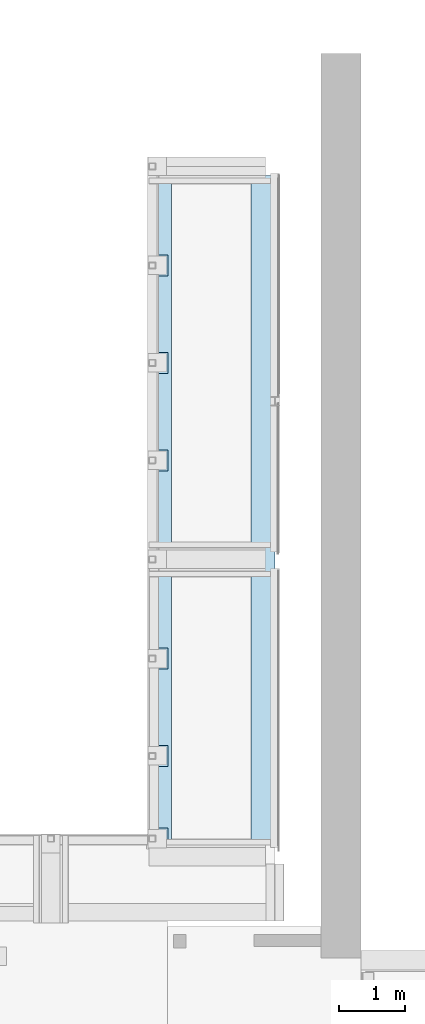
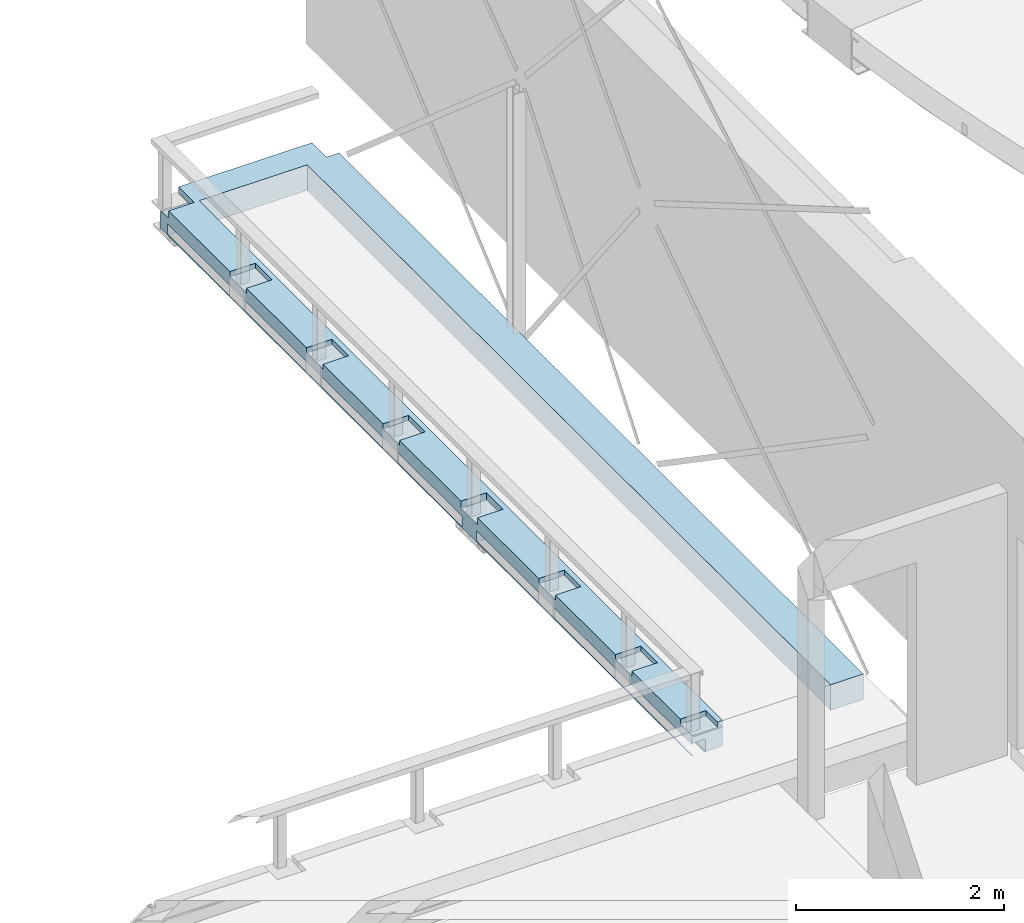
# One storey, part 60 of 68: 1 slab.
"""IFC2X3 building model written with IfcOpenShell, lengths in millimetres."""

import ifcopenshell
import ifcopenshell.guid

model = None  # the IFC model being written
_history = None  # IfcOwnerHistory: only IFC2X3 demands one
_inside = {}  # id of a spatial element -> (the spatial element, [elements in it])
_under = {}  # id of a project, library or spatial element -> (it, [spatial elements below it])
_declared = {}  # id of a project -> (the project, [libraries it declares])
_typed = {}  # id of a type object -> (the type object, [elements of that type])
_made_of = {}  # id of a material, layer set ... -> (it, [elements and type objects made of it])


def new_model(schema):
    """Start an empty IFC model of exactly this schema.

    Asked for "IFC4X3", IfcOpenShell would pick the latest addendum, in which some entities
    have other attributes; the version numbers below select the first issue.
    IFC2X3 requires an IfcOwnerHistory on every rooted entity: one is made here for all.
    """
    global model, _history
    if schema == "IFC4X3":
        model = ifcopenshell.file(schema_version=(4, 3, 0, 0))
    else:
        model = ifcopenshell.file(schema=schema)
    _inside.clear()
    _under.clear()
    _declared.clear()
    _typed.clear()
    _made_of.clear()
    _history = None
    if model.schema == "IFC2X3":
        org = make("IfcOrganization", Name="unknown")
        user = make(
            "IfcPersonAndOrganization",
            ThePerson=make("IfcPerson", FamilyName="unknown"),
            TheOrganization=org,
        )
        app = make(
            "IfcApplication",
            ApplicationDeveloper=org,
            Version="unknown",
            ApplicationFullName="unknown",
            ApplicationIdentifier="unknown",
        )
        _history = make(
            "IfcOwnerHistory",
            OwningUser=user,
            OwningApplication=app,
            ChangeAction="ADDED",
            CreationDate=0,
        )
    return model


def make(cls, **values):
    """One entity of the class cls with the attributes given. An attribute that is None is left unset."""
    return model.create_entity(
        cls, **{name: value for name, value in values.items() if value is not None}
    )


def entity(cls, *values):
    """Any entity or typed value of the class cls, its attributes in the order of the schema. None: left unset."""
    e = model.create_entity(cls)
    for i, value in enumerate(values):
        if value is not None:
            e[i] = value
    return e


def rooted(cls, **values):
    """An entity with a GlobalId (a new one), such as an element, a storey or a relation."""
    return make(cls, GlobalId=ifcopenshell.guid.new(), OwnerHistory=_history, **values)


def si_unit(unit_type, name, prefix=None):
    """IfcSIUnit, for example si_unit("LENGTHUNIT", "METRE", prefix="MILLI")."""
    return make("IfcSIUnit", UnitType=unit_type, Prefix=prefix, Name=name)


def converted_unit(unit_type, name, factor, base, dimensions=None, offset=None):
    """IfcConversionBasedUnit, such as the inch: factor (a typed value) times the base unit."""
    return make(
        "IfcConversionBasedUnit"
        if offset is None
        else "IfcConversionBasedUnitWithOffset",
        ConversionOffset=offset,
        Dimensions=None
        if dimensions is None
        else entity("IfcDimensionalExponents", *dimensions),
        UnitType=unit_type,
        Name=name,
        ConversionFactor=make(
            "IfcMeasureWithUnit", ValueComponent=factor, UnitComponent=base
        ),
    )


def derived_unit(unit_type, elements):
    """IfcDerivedUnit: a product of units, each with its exponent."""
    return make(
        "IfcDerivedUnit",
        Elements=[
            make("IfcDerivedUnitElement", Unit=unit, Exponent=power)
            for unit, power in elements
        ],
        UnitType=unit_type,
    )


def assignment(units):
    """IfcUnitAssignment: the units of a project."""
    return None if units is None else make("IfcUnitAssignment", Units=units)


def point(xyz):
    """IfcCartesianPoint."""
    return None if xyz is None else make("IfcCartesianPoint", Coordinates=xyz)


def direction(xyz):
    """IfcDirection."""
    return None if xyz is None else make("IfcDirection", DirectionRatios=xyz)


def frame(location, z_axis=None, x_axis=None):
    """IfcAxis2Placement3D, a coordinate frame: its origin and axes. An axis left out is left unset."""
    return make(
        "IfcAxis2Placement3D",
        Location=point(location),
        Axis=direction(z_axis),
        RefDirection=direction(x_axis),
    )


def origin():
    """The frame at (0, 0, 0) with its axes left unset."""
    return frame((0.0, 0.0, 0.0))


def place(relative_to, where):
    """IfcLocalPlacement: puts the frame where relative to a parent placement (None: the world)."""
    return make(
        "IfcLocalPlacement", PlacementRelTo=relative_to, RelativePlacement=where
    )


def context(
    kind, dimensions, precision=None, world=None, true_north=None, identifier=None
):
    """IfcGeometricRepresentationContext, for example the 3D "Model" context."""
    return make(
        "IfcGeometricRepresentationContext",
        ContextIdentifier=identifier,
        ContextType=kind,
        CoordinateSpaceDimension=dimensions,
        Precision=precision,
        WorldCoordinateSystem=world,
        TrueNorth=true_north,
    )


def subcontext(parent, identifier, kind, view, scale=None):
    """IfcGeometricRepresentationSubContext, for example "Body" below "Model"."""
    return make(
        "IfcGeometricRepresentationSubContext",
        ContextIdentifier=identifier,
        ContextType=kind,
        ParentContext=parent,
        TargetScale=scale,
        TargetView=view,
    )


def project(units=None, contexts=None):
    """IfcProject with its units and contexts."""
    return rooted(
        "IfcProject",
        Name="project",
        RepresentationContexts=contexts,
        UnitsInContext=assignment(units),
    )


def spatial(cls, under=None, at=None, **own):
    """A site, building, storey or space (cls), placed at a placement, below another one or the project."""
    s = rooted(cls, ObjectPlacement=at, **own)
    if under is not None:
        _under.setdefault(under.id(), (under, []))[1].append(s)
    return s


def faces_of(points, faces, orient=None, outer=None):
    """IfcFace entities. A face is a list of loops; a loop is a list of indices into points, from 0.

    orient and outer hold one flag for each loop. By default every Orientation is true, the
    first loop of a face is its IfcFaceOuterBound and the others are IfcFaceBound.
    """
    made = []
    for i, loops in enumerate(faces):
        bounds = []
        for j, loop in enumerate(loops):
            is_outer = j == 0 if outer is None else outer[i][j]
            bounds.append(
                make(
                    "IfcFaceOuterBound" if is_outer else "IfcFaceBound",
                    Bound=make("IfcPolyLoop", Polygon=[points[k] for k in loop]),
                    Orientation=True if orient is None else orient[i][j],
                )
            )
        made.append(make("IfcFace", Bounds=bounds))
    return made


def faceted_brep(points, faces, orient=None, outer=None, voids=None):
    """IfcFacetedBrep: a solid bounded by flat faces; with voids (closed shells), ...WithVoids."""
    shared = [point(p) for p in points]
    hull = make("IfcClosedShell", CfsFaces=faces_of(shared, faces, orient, outer))
    if voids is None:
        return make("IfcFacetedBrep", Outer=hull)
    return make(
        "IfcFacetedBrepWithVoids",
        Outer=hull,
        Voids=[
            make(cls, CfsFaces=faces_of(shared, fs, o, b)) for cls, fs, o, b in voids
        ],
    )


def shape(context_of_items, identifier, shape_type, items):
    """IfcShapeRepresentation: the items that make up one representation, for example the "Body"."""
    return make(
        "IfcShapeRepresentation",
        ContextOfItems=context_of_items,
        RepresentationIdentifier=identifier,
        RepresentationType=shape_type,
        Items=items,
    )


def material(Name=None, Category=None):
    """IfcMaterial."""
    return make("IfcMaterial", Name=Name, Category=Category)


def made_of(thing, what):
    """Note that an element or type object is made of a material, layer set ...; save() writes the relation."""
    if what is not None:
        _made_of.setdefault(what.id(), (what, []))[1].append(thing)
    return thing


def type_object(cls, material=None, **own):
    """A type object (cls), such as IfcWallType, which elements share."""
    return made_of(rooted(cls, **own), material)


def element(
    cls,
    number,
    at=None,
    inside=None,
    cuts=None,
    type_object=None,
    material=None,
    context=None,
    identifier="Body",
    shape_type=None,
    held_by="IfcProductDefinitionShape",
    body=None,
    shapes=None,
    **own,
):
    """One element of the class cls, such as IfcWall. Its Tag is "e" and its number.

    at: its placement. inside: the storey or other place that contains it. cuts: it is an
    opening in that element (IfcRelVoidsElement). A single representation is given by context,
    identifier, shape_type and body (its items); several are given by shapes. held_by: the class
    of the entity that holds the representations. save() writes the other relations.
    """
    e = rooted(cls, Tag="e%d" % number, ObjectPlacement=at, **own)
    if body is not None:
        shapes = [shape(context, identifier, shape_type, body)]
    if shapes is not None:
        e.Representation = make(held_by, Representations=shapes)
    if inside is not None:
        _inside.setdefault(inside.id(), (inside, []))[1].append(e)
    if cuts is not None:
        rooted(
            "IfcRelVoidsElement", RelatingBuildingElement=cuts, RelatedOpeningElement=e
        )
    if type_object is not None:
        _typed.setdefault(type_object.id(), (type_object, []))[1].append(e)
    return made_of(e, material)


def aggregate(whole, parts):
    """IfcRelAggregates: a whole, such as a stair, and the parts it consists of."""
    return rooted("IfcRelAggregates", RelatingObject=whole, RelatedObjects=parts)


def save(model, path):
    """Write the relations noted so far, then the file.

    IfcRelAggregates (storeys below a building ...), IfcRelContainedInSpatialStructure (elements
    in a storey), IfcRelDefinesByType, IfcRelAssociatesMaterial and IfcRelDeclares: one each for
    every whole, place, type object, material and project.
    """
    for whole, parts in _under.values():
        aggregate(whole, parts)
    for where, things in _inside.values():
        rooted(
            "IfcRelContainedInSpatialStructure",
            RelatedElements=things,
            RelatingStructure=where,
        )
    for kind, things in _typed.values():
        rooted("IfcRelDefinesByType", RelatedObjects=things, RelatingType=kind)
    for what, things in _made_of.values():
        rooted("IfcRelAssociatesMaterial", RelatedObjects=things, RelatingMaterial=what)
    for by, libraries in _declared.values():
        rooted("IfcRelDeclares", RelatingContext=by, RelatedDefinitions=libraries)
    model.write(path)


model = new_model("IFC2X3")

# Units and contexts
model_context = context("Model", 3, precision=0.01, world=origin(), true_north=direction((6.12303176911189e-17, 1.0)))
body_context = subcontext(model_context, "Body", "Model", "MODEL_VIEW")
ifc_project = project(units=[si_unit("LENGTHUNIT", "METRE", prefix="MILLI"), si_unit("AREAUNIT", "SQUARE_METRE", prefix="MILLI"), si_unit("VOLUMEUNIT", "CUBIC_METRE"), converted_unit("PLANEANGLEUNIT", "DEGREE", entity("IfcRatioMeasure", 0.0174532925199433), si_unit("PLANEANGLEUNIT", "RADIAN"), dimensions=[0, 0, 0, 0, 0, 0, 0]), si_unit("MASSUNIT", "GRAM", prefix="KILO"), derived_unit("MASSDENSITYUNIT", [(si_unit("MASSUNIT", "GRAM", prefix="KILO"), 1), (si_unit("LENGTHUNIT", "METRE"), -3)]), derived_unit("MOMENTOFINERTIAUNIT", [(si_unit("LENGTHUNIT", "METRE"), 4)]), si_unit("TIMEUNIT", "SECOND"), si_unit("FREQUENCYUNIT", "HERTZ"), si_unit("THERMODYNAMICTEMPERATUREUNIT", "DEGREE_CELSIUS"), derived_unit("THERMALTRANSMITTANCEUNIT", [(si_unit("MASSUNIT", "GRAM", prefix="KILO"), 1), (si_unit("THERMODYNAMICTEMPERATUREUNIT", "KELVIN"), -1), (si_unit("TIMEUNIT", "SECOND"), -3)]), derived_unit("VOLUMETRICFLOWRATEUNIT", [(si_unit("LENGTHUNIT", "METRE"), 3), (si_unit("TIMEUNIT", "SECOND"), -1)]), si_unit("ELECTRICCURRENTUNIT", "AMPERE"), si_unit("ELECTRICVOLTAGEUNIT", "VOLT"), si_unit("POWERUNIT", "WATT"), si_unit("FORCEUNIT", "NEWTON", prefix="KILO"), si_unit("ILLUMINANCEUNIT", "LUX"), si_unit("LUMINOUSFLUXUNIT", "LUMEN"), si_unit("LUMINOUSINTENSITYUNIT", "CANDELA"), derived_unit("USERDEFINED", [(si_unit("MASSUNIT", "GRAM", prefix="KILO"), -1), (si_unit("LENGTHUNIT", "METRE"), -2), (si_unit("TIMEUNIT", "SECOND"), 3), (si_unit("LUMINOUSFLUXUNIT", "LUMEN"), 1)]), derived_unit("LINEARVELOCITYUNIT", [(si_unit("LENGTHUNIT", "METRE"), 1), (si_unit("TIMEUNIT", "SECOND"), -1)]), si_unit("PRESSUREUNIT", "PASCAL"), derived_unit("USERDEFINED", [(si_unit("LENGTHUNIT", "METRE"), -2), (si_unit("MASSUNIT", "GRAM", prefix="KILO"), 1), (si_unit("TIMEUNIT", "SECOND"), -2)]), derived_unit("LINEARFORCEUNIT", [(si_unit("MASSUNIT", "GRAM", prefix="KILO"), 1), (si_unit("LENGTHUNIT", "METRE"), 1), (si_unit("TIMEUNIT", "SECOND"), -2), (si_unit("LENGTHUNIT", "METRE"), -1)]), derived_unit("PLANARFORCEUNIT", [(si_unit("MASSUNIT", "GRAM", prefix="KILO"), 1), (si_unit("LENGTHUNIT", "METRE"), 1), (si_unit("TIMEUNIT", "SECOND"), -2), (si_unit("LENGTHUNIT", "METRE"), -2)])], contexts=[model_context])

# Site, building, storey
site_placement = place(None, origin())
site = spatial("IfcSite", under=ifc_project, at=site_placement, Name="Theater aan de Parade", CompositionType="ELEMENT")
building_placement = place(site_placement, origin())
building = spatial("IfcBuilding", under=site, at=building_placement, Name="Theater aan de Parade", CompositionType="ELEMENT")
storey_placement = place(building_placement, frame((0.0, 0.0, 8750.0)))
storey = spatial("IfcBuildingStorey", under=building, at=storey_placement, Name="02 tweede verdieping", CompositionType="ELEMENT", Elevation=8750.0)

# Slab
ifc_material = material(Name="00_PBT_MAT_beton t.p.g._C30/37")
slab_type = type_object("IfcSlabType", Name="Floor:28_PBT_FL_beton t.p.g._d=300_rand staalplaat-betonvloer_C30/37", PredefinedType="FLOOR")
slab_placement = place(storey_placement, origin())
element("IfcSlab", 1, at=slab_placement, inside=storey, type_object=slab_type, material=ifc_material, Name="Floor:28_PBT_FL_beton t.p.g._d=300_rand staalplaat-betonvloer_C30/37", ObjectType="Floor:28_PBT_FL_beton t.p.g._d=300_rand staalplaat-betonvloer_C30/37", PredefinedType="FLOOR", context=body_context, shape_type="Brep", body=[
    faceted_brep([(36013.8581300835, 29378.2922984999, -70.0), (36013.8581300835, 29658.2922984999, -70.0), (36013.8581300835, 29658.2922984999, 0.0), (36013.8581300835, 29378.2922984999, 0.0), (36013.8581300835, 29513.0422984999, -300.0), (36013.8581300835, 29513.0422984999, -112.0), (36013.8581300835, 29511.284939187, -107.757359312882), (36013.8581300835, 29509.5275798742, -103.514718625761), (36013.8581300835, 29507.7702205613, -99.2720779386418), (36013.8581300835, 29506.0128612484, -95.0294372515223), (36013.8581300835, 29501.7702205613, -93.2720779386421), (36013.8581300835, 29497.5275798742, -91.514718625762), (36013.8581300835, 29494.88360476, -90.4195482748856), (36013.8581300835, 29489.0422984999, -88.0), (36013.8581300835, 29378.2922984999, -88.0), (36013.8581300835, 29378.2922984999, -300.0), (35788.8574772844, 19278.2922984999, 0.0), (35788.8574772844, 19278.2922984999, -300.0), (36153.8574772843, 19278.2922984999, -300.0), (36153.8574772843, 19278.2922984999, 0.0), (34246.8569737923, 19278.2922984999, -60.0), (34246.8569737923, 19278.2922984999, -165.0), (34247.8750330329, 19278.2922984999, -162.542187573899), (34249.0536729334, 19278.2922984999, -159.696699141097), (34250.1520225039, 19278.2922984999, -157.045048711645), (34251.2503720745, 19278.2922984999, -154.393398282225), (34253.9020225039, 19278.2922984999, -153.295048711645), (34256.5536729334, 19278.2922984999, -152.196699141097), (34259.2053233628, 19278.2922984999, -151.09834957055), (34261.8569737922, 19278.2922984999, -150.0), (34381.8569737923, 19278.2922984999, -150.0), (34384.3147862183, 19278.2922984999, -151.018059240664), (34386.7725986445, 19278.2922984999, -152.036118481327), (34389.6180870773, 19278.2922984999, -153.214758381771), (34392.4635755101, 19278.2922984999, -154.393398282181), (34393.5619250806, 19278.2922984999, -157.045048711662), (34394.6602746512, 19278.2922984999, -159.696699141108), (34395.7586242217, 19278.2922984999, -162.348349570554), (34396.8569737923, 19278.2922984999, -165.0), (34396.8569737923, 19278.2922984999, -285.0), (34395.8389145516, 19278.2922984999, -287.45781242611), (34394.8208553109, 19278.2922984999, -289.915624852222), (34393.6422154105, 19278.2922984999, -292.761113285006), (34392.4635755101, 19278.2922984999, -295.606601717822), (34389.8119250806, 19278.2922984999, -296.704951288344), (34387.1602746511, 19278.2922984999, -297.803300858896), (34384.5086242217, 19278.2922984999, -298.901650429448), (34381.8569737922, 19278.2922984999, -300.0), (34588.8574772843, 19278.2922984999, -300.0), (34588.8574772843, 19278.2922984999, 0.0), (34531.8569737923, 19278.2922984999, 0.0), (34531.8569737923, 19278.2922984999, -60.0), (34246.8569737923, 19278.2922984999, -300.0), (34261.8569737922, 19278.2922984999, -300.0), (34259.399161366, 19278.2922984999, -298.981940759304), (34256.9413489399, 19278.2922984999, -297.963881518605), (34254.0958605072, 19278.2922984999, -296.785241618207), (34251.2503720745, 19278.2922984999, -295.606601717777), (34250.0717321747, 19278.2922984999, -292.761113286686), (34248.893092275, 19278.2922984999, -289.915624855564), (34247.8750330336, 19278.2922984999, -287.457812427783), (34246.8569737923, 19278.2922984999, -285.0), (34246.8569737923, 19393.308446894, -300.0), (34261.8569737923, 23428.2922984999, -300.0), (34261.8569737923, 23708.2922984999, -300.0), (34246.8569737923, 29513.0422984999, -300.0), (34261.8569737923, 29378.2922984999, -300.0), (34381.8569737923, 29378.2922984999, -300.0), (34588.8574772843, 29358.2922984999, -300.0), (35788.8574772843, 29358.2922984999, -300.0), (36153.8574772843, 29378.2922984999, -300.0), (34381.8569737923, 23708.2922984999, -300.0), (34381.8569737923, 23428.2922984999, -300.0), (34246.8569737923, 29358.2922984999, 0.0), (34246.8569737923, 28178.2922984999, 0.0), (34531.8569737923, 28178.2922984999, 0.0), (34531.8569737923, 27858.2922984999, 0.0), (34246.8569737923, 27858.2922984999, 0.0), (34246.8569737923, 26703.2922984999, 0.0), (34531.8569737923, 26703.2922984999, 0.0), (34531.8569737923, 26383.2922985, 0.0), (34246.8569737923, 26383.2922985, 0.0), (34246.8569737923, 25228.2922984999, 0.0), (34531.8569737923, 25228.2922984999, 0.0), (34531.8569737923, 24908.2922985, 0.0), (34246.8569737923, 24908.2922985, 0.0), (34246.8569737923, 23728.2922984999, 0.0), (34531.8569737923, 23728.2922984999, 0.0), (34531.8569737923, 23408.2922985, 0.0), (34246.8569737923, 23408.2922984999, 0.0), (34246.8569737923, 22228.2922985, 0.0), (34531.8569737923, 22228.2922985, 0.0), (34531.8569737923, 21908.2922985, 0.0), (34246.8569737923, 21908.2922985, 0.0), (34246.8569737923, 20753.2922985, 0.0), (34531.8569737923, 20753.2922985, 0.0), (34531.8569737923, 20433.2922985, 0.0), (34246.8569737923, 20433.2922985, 0.0), (34246.8569737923, 19503.3084468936, 0.0), (34531.8569737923, 19503.3084468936, 0.0), (34588.8574772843, 29358.2922984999, 0.0), (35788.8574772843, 29358.2922984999, 0.0), (36153.8574772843, 29378.2922984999, 0.0), (34531.8569737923, 29658.2922984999, 0.0), (34531.8569737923, 29358.2922984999, 0.0), (34531.8569737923, 29658.2922984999, -70.0), (34246.8569737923, 19393.308446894, -285.0), (34246.8569737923, 23428.2922984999, -285.0), (34246.8569737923, 23708.2922984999, -285.0), (34246.8569737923, 23428.2922984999, -165.0), (34246.8569737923, 23708.2922984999, -165.0), (34246.8569737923, 23728.2922984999, -85.0), (34246.8569737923, 23408.2922985, -85.0), (34246.8569737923, 22228.2922985, -60.0), (34246.8569737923, 21908.2922985, -60.0), (34246.8569737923, 19393.308446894, -165.0), (34246.8569737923, 20753.2922985, -60.0), (34246.8569737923, 20433.2922985, -60.0), (34246.8569737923, 19503.3084468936, -60.0), (34246.8569737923, 19393.308446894, -60.0), (34246.8569737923, 24908.2922985, -60.0), (34246.8569737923, 25228.2922984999, -60.0), (34246.8569737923, 26383.2922985, -60.0), (34246.8569737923, 26703.2922984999, -60.0), (34246.8569737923, 29378.2922984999, -165.0), (34246.8569737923, 27858.2922984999, -60.0), (34246.8569737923, 28178.2922984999, -60.0), (34246.8569737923, 29358.2922984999, -85.0), (34246.8569737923, 29378.2922984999, -88.0), (34246.8569737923, 29378.2922984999, -85.0), (34246.8569737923, 29489.0422984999, -88.0), (34246.8569737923, 29513.0422984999, -112.0), (34246.8569737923, 29494.8836047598, -90.4195482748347), (34246.8569737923, 29500.7249110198, -92.8390965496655), (34246.8569737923, 29511.284939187, -107.757359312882), (34246.8569737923, 29509.5275798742, -103.514718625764), (34246.8569737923, 29507.7702205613, -99.272077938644), (34246.8569737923, 29506.0128612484, -95.0294372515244), (34246.8569737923, 29378.2922984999, -285.0), (34247.9553233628, 23708.2922984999, -162.348349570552), (34249.0536729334, 23708.2922984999, -159.696699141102), (34250.1520225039, 23708.2922984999, -157.045048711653), (34251.2503720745, 23708.2922984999, -154.393398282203), (34253.9020225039, 23708.2922984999, -153.295048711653), (34256.5536729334, 23708.2922984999, -152.196699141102), (34259.9089322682, 23708.2922984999, -150.806905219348), (34261.8569737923, 23708.2922984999, -150.0), (34381.8569737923, 23708.2922984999, -150.0), (34384.5086242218, 23708.2922984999, -151.098349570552), (34387.1602746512, 23708.2922984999, -152.196699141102), (34389.8119250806, 23708.2922984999, -153.295048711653), (34392.4635755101, 23708.2922984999, -154.393398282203), (34393.5619250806, 23708.2922984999, -157.045048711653), (34394.6602746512, 23708.2922984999, -159.696699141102), (34396.0500685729, 23708.2922984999, -163.051958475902), (34396.8569737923, 23708.2922984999, -165.0), (34396.8569737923, 23708.2922984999, -285.0), (34395.7586242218, 23708.2922984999, -287.651650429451), (34394.6602746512, 23708.2922984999, -290.3033008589), (34393.5619250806, 23708.2922984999, -292.954951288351), (34392.4635755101, 23708.2922984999, -295.6066017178), (34389.8119250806, 23708.2922984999, -296.70495128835), (34387.1602746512, 23708.2922984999, -297.8033008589), (34383.8050153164, 23708.2922984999, -299.193094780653), (34259.2053233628, 23708.2922984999, -298.901650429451), (34256.5536729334, 23708.2922984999, -297.8033008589), (34253.9020225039, 23708.2922984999, -296.70495128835), (34251.2503720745, 23708.2922984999, -295.6066017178), (34250.1520225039, 23708.2922984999, -292.95495128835), (34249.0536729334, 23708.2922984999, -290.303300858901), (34247.9553233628, 23708.2922984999, -287.651650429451), (34254.6056314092, 29378.2922984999, -296.996395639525), (34257.9608907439, 29378.2922984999, -298.386189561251), (34384.5086242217, 29378.2922984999, -298.901650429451), (34387.1602746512, 29378.2922984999, -297.8033008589), (34389.8119250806, 29378.2922984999, -296.70495128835), (34392.4635755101, 29378.2922984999, -295.6066017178), (34393.8533694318, 29378.2922984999, -292.251342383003), (34395.2431633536, 29378.2922984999, -288.896083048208), (34396.8569737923, 29378.2922984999, -285.0), (34396.8569737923, 29378.2922984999, -165.0), (34395.7586242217, 29378.2922984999, -162.348349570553), (34394.6602746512, 29378.2922984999, -159.696699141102), (34393.5619250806, 29378.2922984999, -157.045048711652), (34392.4635755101, 29378.2922984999, -154.393398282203), (34389.1083161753, 29378.2922984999, -153.00360436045), (34385.7530568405, 29378.2922984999, -151.613810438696), (34381.8569737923, 29378.2922984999, -150.0), (34261.8569737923, 29378.2922984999, -150.0), (34259.2053233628, 29378.2922984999, -151.098349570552), (34256.5536729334, 29378.2922984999, -152.196699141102), (34253.9020225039, 29378.2922984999, -153.295048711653), (34251.2503720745, 29378.2922984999, -154.393398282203), (34249.8605781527, 29378.2922984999, -157.748657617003), (34248.470784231, 29378.2922984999, -161.103916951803), (34247.9553233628, 29378.2922984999, -287.651650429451), (34249.0536729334, 29378.2922984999, -290.3033008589), (34250.1520225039, 29378.2922984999, -292.95495128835), (34251.2503720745, 29378.2922984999, -295.6066017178), (34396.8569737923, 23428.2922984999, -165.0), (34396.8569737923, 23428.2922984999, -285.0), (34384.3147862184, 23428.2922984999, -298.981940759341), (34392.4635755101, 23428.2922984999, -295.6066017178), (34389.8119250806, 23428.2922984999, -296.70495128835), (34387.1602746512, 23428.2922984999, -297.8033008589), (34395.7586242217, 23428.2922984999, -287.651650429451), (34394.6602746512, 23428.2922984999, -290.3033008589), (34393.5619250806, 23428.2922984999, -292.95495128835), (34247.9553233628, 23428.2922984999, -287.651650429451), (34251.2503720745, 23428.2922984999, -295.6066017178), (34250.1520225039, 23428.2922984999, -292.95495128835), (34249.0536729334, 23428.2922984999, -290.3033008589), (34259.2053233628, 23428.2922984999, -298.901650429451), (34256.5536729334, 23428.2922984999, -297.8033008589), (34253.9020225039, 23428.2922984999, -296.70495128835), (34395.8389145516, 23428.2922984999, -162.542187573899), (34392.4635755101, 23428.2922984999, -154.393398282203), (34393.5619250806, 23428.2922984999, -157.045048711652), (34394.6602746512, 23428.2922984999, -159.696699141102), (34381.8569737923, 23428.2922984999, -150.0), (34384.5086242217, 23428.2922984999, -151.098349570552), (34387.1602746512, 23428.2922984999, -152.196699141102), (34389.8119250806, 23428.2922984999, -153.295048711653), (34261.8569737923, 23428.2922984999, -150.0), (34256.9413489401, 23428.2922984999, -152.036118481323), (34259.3991613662, 23428.2922984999, -151.018059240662), (34251.2503720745, 23428.2922984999, -154.393398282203), (34254.0958605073, 23428.2922984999, -153.214758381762), (34247.875033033, 23428.2922984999, -162.542187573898), (34248.8930922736, 23428.2922984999, -160.084375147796), (34250.0717321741, 23428.2922984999, -157.238886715), (34531.8569737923, 29378.2922984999, -70.0), (34531.8569737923, 29378.2922984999, -85.0), (34531.8569737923, 29358.2922984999, -85.0), (34531.8569737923, 23408.2922985, -85.0), (34531.8569737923, 23728.2922985, -85.0), (34531.8569737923, 28178.2922985, -60.0), (34531.8569737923, 27858.2922984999, -60.0), (34531.8569737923, 26703.2922985, -60.0), (34531.8569737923, 26383.2922985, -60.0), (34531.8569737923, 25228.2922985, -60.0), (34531.8569737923, 24908.2922985, -60.0), (34531.8569737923, 22228.2922985, -60.0), (34531.8569737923, 21908.2922985, -60.0), (34531.8569737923, 20753.2922985, -60.0), (34531.8569737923, 20433.2922985, -60.0), (34531.8569737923, 19503.3084468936, -60.0)], [[[0, 1, 2, 3]], [[4, 5, 6, 7, 8, 9, 10, 11, 12, 13, 14, 15]], [[16, 17, 18, 19]], [[20, 21, 22, 23, 24, 25, 26, 27, 28, 29, 30, 31, 32, 33, 34, 35, 36, 37, 38, 39, 40, 41, 42, 43, 44, 45, 46, 47, 48, 49, 50, 51]], [[52, 53, 54, 55, 56, 57, 58, 59, 60, 61]], [[53, 52, 62]], [[62, 63, 53]], [[63, 62, 64]], [[64, 62, 65]], [[65, 66, 64]], [[67, 66, 65]], [[67, 65, 68]], [[68, 65, 4]], [[69, 68, 4]], [[4, 15, 69]], [[15, 70, 69]], [[70, 18, 69]], [[69, 18, 17]], [[71, 67, 68]], [[71, 68, 48]], [[71, 48, 72]], [[72, 48, 47]], [[63, 64, 72]], [[64, 71, 72]], [[73, 74, 75, 76, 77, 78, 79, 80, 81, 82, 83, 84, 85, 86, 87, 88, 89, 90, 91, 92, 93, 94, 95, 96, 97, 98, 99, 50, 49, 100, 101, 16, 19, 102, 3, 2, 103, 104]], [[18, 70, 102, 19]], [[68, 69, 101, 100]], [[69, 17, 16, 101]], [[48, 68, 100, 49]], [[1, 105, 103, 2]], [[52, 61, 62]], [[62, 61, 106]], [[107, 62, 106]], [[107, 108, 62]], [[107, 109, 108]], [[109, 110, 108]], [[109, 111, 110]], [[111, 109, 112]], [[113, 112, 109]], [[114, 113, 109]], [[115, 114, 109]], [[115, 116, 114]], [[115, 117, 116]], [[118, 117, 115]], [[115, 119, 118]], [[119, 115, 21]], [[21, 20, 119]], [[117, 118, 97]], [[98, 97, 118]], [[114, 116, 93]], [[116, 94, 93]], [[113, 89, 112]], [[113, 90, 89]], [[110, 111, 120]], [[111, 86, 120]], [[86, 85, 120]], [[121, 110, 120]], [[110, 121, 122]], [[122, 121, 82]], [[81, 122, 82]], [[110, 122, 123]], [[124, 110, 123]], [[124, 123, 125]], [[78, 125, 123]], [[78, 77, 125]], [[126, 124, 125]], [[126, 127, 124]], [[126, 73, 127]], [[73, 126, 74]], [[128, 124, 127]], [[128, 127, 129]], [[124, 128, 130]], [[124, 130, 131]], [[131, 130, 132]], [[131, 132, 133]], [[133, 134, 131]], [[133, 135, 134]], [[133, 136, 135]], [[133, 137, 136]], [[124, 131, 65]], [[62, 108, 65]], [[65, 138, 124]], [[65, 108, 138]], [[108, 110, 139, 140, 141, 142, 143, 144, 145, 146, 147, 148, 149, 150, 151, 152, 153, 154, 155, 156, 157, 158, 159, 160, 161, 162, 163, 71, 64, 164, 165, 166, 167, 168, 169, 170]], [[171, 172, 66, 67, 173, 174, 175, 176, 177, 178, 179, 180, 181, 182, 183, 184, 185, 186, 187, 188, 189, 190, 191, 192, 193, 194, 124, 138, 195, 196, 197, 198]], [[180, 179, 156, 155]], [[199, 200, 39, 38]], [[67, 71, 163, 162, 161, 160, 176, 175, 174, 173]], [[201, 72, 47, 46, 45, 44, 43, 202, 203, 204]], [[159, 158, 157, 156, 179, 178, 177, 176, 160]], [[202, 43, 42, 41, 40, 39, 200, 205, 206, 207]], [[195, 138, 108, 170, 169, 168, 167, 198, 197, 196]], [[208, 107, 106, 61, 60, 59, 58, 57, 209, 210, 211]], [[171, 198, 167, 166, 165, 164, 64, 66, 172]], [[55, 54, 53, 63, 212, 213, 214, 209, 57, 56]], [[180, 155, 154, 153, 152, 151, 184, 183, 182, 181]], [[215, 199, 38, 37, 36, 35, 34, 216, 217, 218]], [[150, 149, 148, 147, 187, 186, 185, 184, 151]], [[216, 34, 33, 32, 31, 30, 219, 220, 221, 222]], [[187, 147, 146, 188]], [[223, 219, 30, 29]], [[188, 146, 145, 144, 143, 142, 192, 191, 190, 189]], [[224, 225, 223, 29, 28, 27, 26, 25, 226, 227]], [[141, 140, 139, 110, 124, 194, 193, 192, 142]], [[23, 22, 21, 115, 109, 228, 229, 230, 226, 25, 24]], [[130, 128, 14, 13]], [[130, 13, 12, 11, 10, 9, 137, 133, 132]], [[8, 7, 6, 5, 131, 134, 135, 136, 137, 9]], [[65, 131, 5, 4]], [[231, 105, 1, 0]], [[232, 231, 0, 3, 102, 70, 15, 14, 128, 129]], [[129, 127, 233, 232]], [[111, 112, 234, 235]], [[73, 104, 233, 127]], [[104, 103, 105, 231, 232, 233]], [[76, 75, 236, 237]], [[80, 79, 238, 239]], [[84, 83, 240, 241]], [[88, 87, 235, 234]], [[92, 91, 242, 243]], [[96, 95, 244, 245]], [[50, 99, 246, 51]], [[126, 125, 237, 236]], [[123, 122, 239, 238]], [[121, 120, 241, 240]], [[113, 114, 243, 242]], [[116, 117, 245, 244]], [[119, 20, 51, 246, 118]], [[77, 76, 237, 125]], [[75, 74, 126, 236]], [[81, 80, 239, 122]], [[79, 78, 123, 238]], [[85, 84, 241, 120]], [[83, 82, 121, 240]], [[89, 88, 234, 112]], [[87, 86, 111, 235]], [[93, 92, 243, 114]], [[91, 90, 113, 242]], [[97, 96, 245, 117]], [[95, 94, 116, 244]], [[99, 98, 118, 246]], [[214, 213, 212, 63, 72, 201, 204, 203, 202, 207, 206, 205, 200, 199, 215, 218, 217, 216, 222, 221, 220, 219, 223, 225, 224, 227, 226, 230, 229, 228, 109, 107, 208, 211, 210, 209]]]),
])

save(model, "model.ifc")
